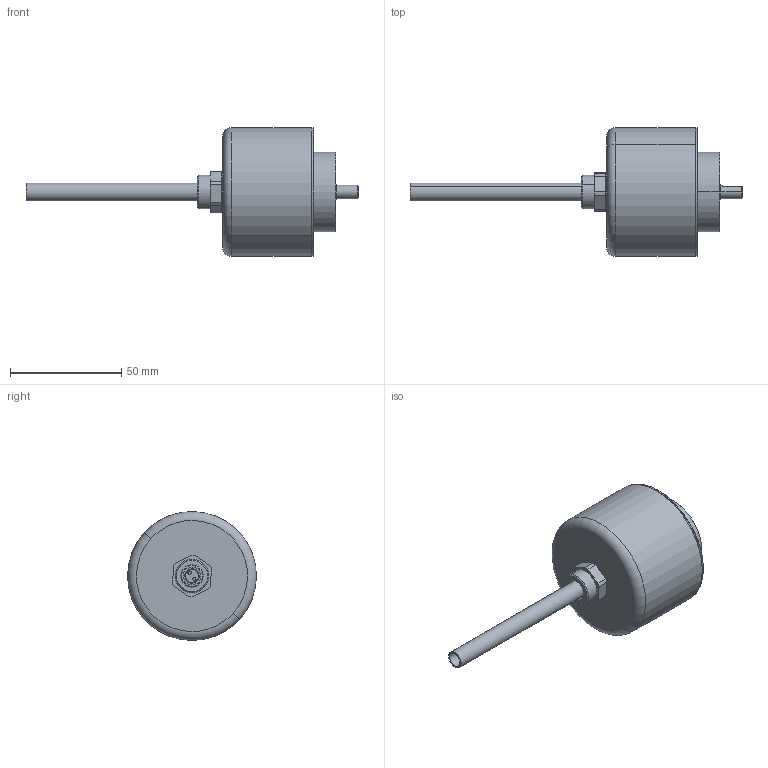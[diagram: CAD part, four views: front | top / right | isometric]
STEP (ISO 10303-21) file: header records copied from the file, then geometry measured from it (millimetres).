
FILE_DESCRIPTION (( 'STEP AP203' ), '1' );
FILE_NAME ('8.5805.11X1.XXXX.STEP', '2013-11-20T08:21:35', ( 'HeirlerN' ), ( 'Microsoft' ), 'SwSTEP 2.0', 'SolidWorks 2013', '' );
FILE_SCHEMA (( 'CONFIG_CONTROL_DESIGN' ));
Length unit declared in the file: millimetre
Products named in the file (1): 8.5805.11X1.XXXX
Bounding box: 149.45 x 58 x 58 mm (x, y, z)
Volume: 51442.3 mm3; surface area: 42237.1 mm2
Topology: 7 solids, 7 shells, 243 faces, 589 edges, 359 vertices
Faces by surface type: cylinder 95, plane 53, cone 49, torus 26, sphere 20
Entity records: 7389 total; most frequent: CARTESIAN_POINT 1764, DIRECTION 1278, ORIENTED_EDGE 1050, AXIS2_PLACEMENT_3D 551, EDGE_CURVE 525, VERTEX_POINT 329, CIRCLE 307, EDGE_LOOP 306
